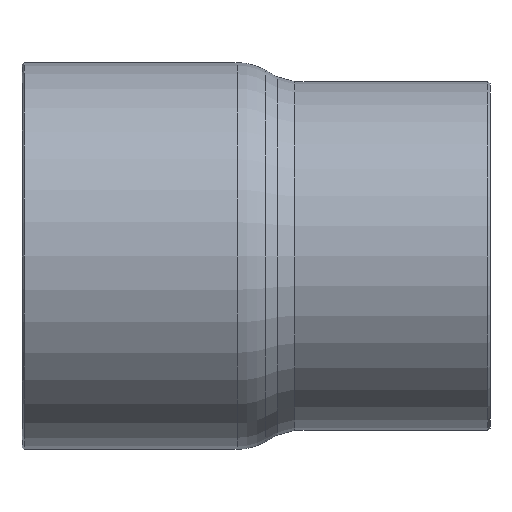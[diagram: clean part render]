
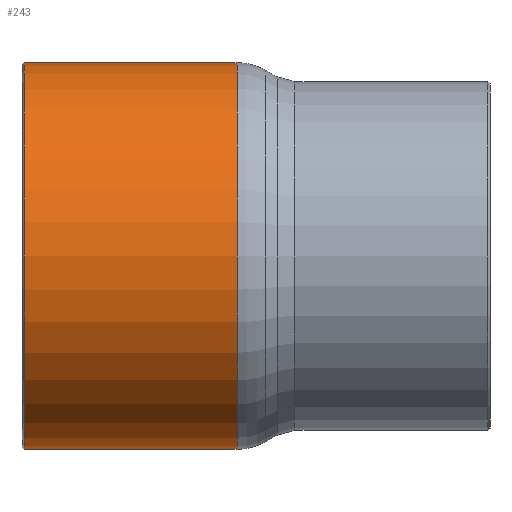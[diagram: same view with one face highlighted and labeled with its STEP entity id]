
A CAD part, front view. The second image highlights one B-rep face of the part: STEP entity #243.
In plain terms, the highlighted cylindrical face has radius 26.985 mm (diameter 53.97 mm), a full revolution.
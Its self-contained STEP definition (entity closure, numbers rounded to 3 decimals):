
#212=CARTESIAN_POINT('',(-42.,26.985,0.));
#213=VERTEX_POINT('',#212);
#214=CARTESIAN_POINT('',(-42.,0.0,0.0));
#215=DIRECTION('',(-1.0,0.0,0.0));
#216=DIRECTION('',(0.0,-1.0,0.0));
#217=AXIS2_PLACEMENT_3D('',#214,#215,#216);
#218=CIRCLE('',#217,26.985);
#219=EDGE_CURVE('',#213,#213,#218,.T.);
#224=CARTESIAN_POINT('',(-27.3,0.0,0.0));
#225=DIRECTION('',(1.0,0.0,0.0));
#226=DIRECTION('',(0.0,1.0,0.0));
#227=AXIS2_PLACEMENT_3D('',#224,#225,#226);
#228=CYLINDRICAL_SURFACE('',#227,26.985);
#229=CARTESIAN_POINT('',(-12.3,26.985,0.0));
#230=VERTEX_POINT('',#229);
#231=CARTESIAN_POINT('',(-12.3,0.0,0.0));
#232=DIRECTION('',(1.0,0.0,0.0));
#233=DIRECTION('',(0.0,1.0,0.0));
#234=AXIS2_PLACEMENT_3D('',#231,#232,#233);
#235=CIRCLE('',#234,26.985);
#236=EDGE_CURVE('',#230,#230,#235,.T.);
#237=ORIENTED_EDGE('',*,*,#236,.F.);
#238=EDGE_LOOP('',(#237));
#239=FACE_OUTER_BOUND('',#238,.T.);
#240=ORIENTED_EDGE('',*,*,#219,.F.);
#241=EDGE_LOOP('',(#240));
#242=FACE_BOUND('',#241,.T.);
#243=ADVANCED_FACE('',(#239,#242),#228,.T.);
